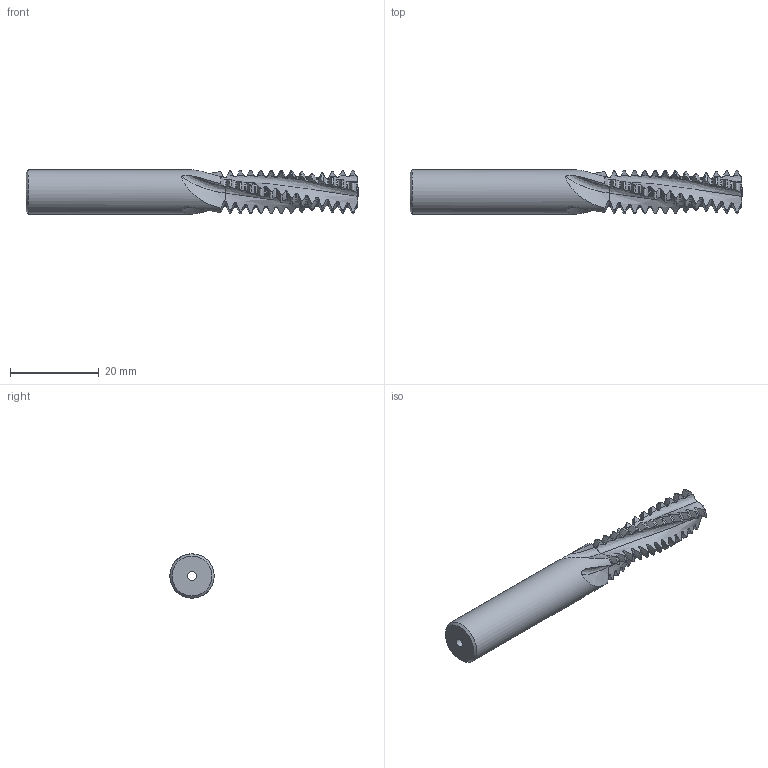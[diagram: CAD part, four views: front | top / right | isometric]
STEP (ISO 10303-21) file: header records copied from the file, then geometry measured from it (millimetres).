
FILE_DESCRIPTION(/* description */ (''),/* implementation_level */ '2;1');
FILE_NAME(/* name */ '00032280-STEP',/* time_stamp */ '2024-02-20T08:49:58+01:00',/* author */ (''),/* organization */ (''),/* preprocessor_version */ 'ST-DEVELOPER v16.5',/* originating_system */ 'HiCAD 2017 2201.0 Build 268',/* authorisation */ '');
FILE_SCHEMA (('AUTOMOTIVE_DESIGN { 1 0 10303 214 1 1 1 1 }'));
Products named in the file (2): Root; ROTATIONSTEIL_0
Assembly tree (1 placements, depth 2):
  Root
    ROTATIONSTEIL_0
Bounding box: 75 x 9.99 x 9.99 mm (x, y, z)
Volume: 4068.7 mm3; surface area: 3030.5 mm2
Topology: 1 solids, 1 shells, 401 faces, 1302 edges, 903 vertices
Faces by surface type: torus 160, cone 109, bspline 72, cylinder 58, plane 2
Full cylindrical faces by diameter (mm): 2 x1, 10 x1
Entity records: 44648 total; most frequent: CARTESIAN_POINT 23011, PRESENTATION_STYLE_ASSIGNMENT 2591, COLOUR_RGB 2591, DRAUGHTING_PRE_DEFINED_CURVE_FONT 2590, CURVE_STYLE 2590, OVER_RIDING_STYLED_ITEM 2590, ORIENTED_EDGE 2590, DIRECTION 1328
